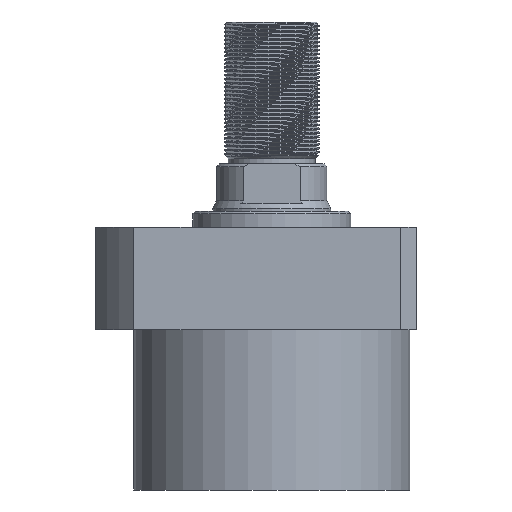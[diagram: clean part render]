
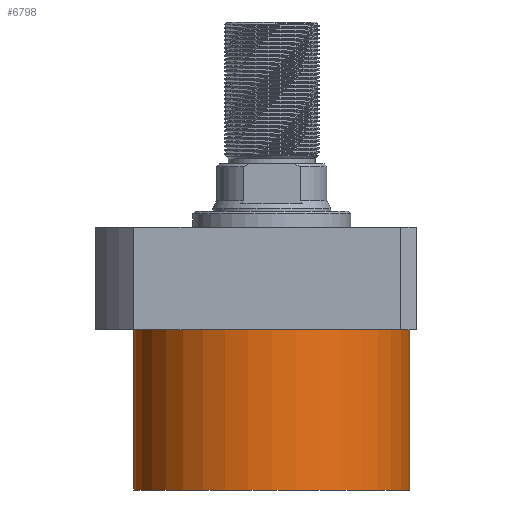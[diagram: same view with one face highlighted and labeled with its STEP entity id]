
A CAD part, front view. The second image highlights one B-rep face of the part: STEP entity #6798.
In plain terms, the highlighted cylindrical face has radius 52.5 mm (diameter 105 mm), a partial arc.
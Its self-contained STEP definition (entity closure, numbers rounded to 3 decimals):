
#62 = VERTEX_POINT ( 'NONE', #534 ) ;
#534 = CARTESIAN_POINT ( 'NONE',  ( -52.5, 0., -19.5 ) ) ;
#572 = EDGE_CURVE ( 'NONE', #6392, #62, #7103, .T. ) ;
#923 = ORIENTED_EDGE ( 'NONE', *, *, #6976, .F. ) ;
#1705 = VERTEX_POINT ( 'NONE', #3132 ) ;
#2084 = LINE ( 'NONE', #4083, #3758 ) ;
#2123 = DIRECTION ( 'NONE',  ( 1., 0., 0. ) ) ;
#2136 = DIRECTION ( 'NONE',  ( 0., 0., -1. ) ) ;
#2196 = EDGE_LOOP ( 'NONE', ( #2814, #923, #5557, #5338 ) ) ;
#2271 = VECTOR ( 'NONE', #6696, 1000. ) ;
#2479 = AXIS2_PLACEMENT_3D ( 'NONE', #3488, #5337, #4856 ) ;
#2654 = CARTESIAN_POINT ( 'NONE',  ( -52.5, 0., -80.5 ) ) ;
#2676 = AXIS2_PLACEMENT_3D ( 'NONE', #5878, #2136, #6488 ) ;
#2814 = ORIENTED_EDGE ( 'NONE', *, *, #4595, .F. ) ;
#2959 = CARTESIAN_POINT ( 'NONE',  ( -52.5, 0., -80.5 ) ) ;
#3132 = CARTESIAN_POINT ( 'NONE',  ( 52.5, 0., -80.5 ) ) ;
#3488 = CARTESIAN_POINT ( 'NONE',  ( 0., 0., -19.5 ) ) ;
#3603 = EDGE_CURVE ( 'NONE', #1705, #6392, #2084, .T. ) ;
#3758 = VECTOR ( 'NONE', #7787, 1000. ) ;
#3986 = DIRECTION ( 'NONE',  ( 0., 0., 1. ) ) ;
#4083 = CARTESIAN_POINT ( 'NONE',  ( 52.5, 0., -80.5 ) ) ;
#4595 = EDGE_CURVE ( 'NONE', #8008, #62, #8102, .T. ) ;
#4630 = CYLINDRICAL_SURFACE ( 'NONE', #5324, 52.5 ) ;
#4856 = DIRECTION ( 'NONE',  ( 1., 0., 0. ) ) ;
#5019 = FACE_OUTER_BOUND ( 'NONE', #2196, .T. ) ;
#5324 = AXIS2_PLACEMENT_3D ( 'NONE', #5867, #3986, #2123 ) ;
#5337 = DIRECTION ( 'NONE',  ( 0., 0., -1. ) ) ;
#5338 = ORIENTED_EDGE ( 'NONE', *, *, #572, .T. ) ;
#5520 = CIRCLE ( 'NONE', #2676, 52.5 ) ;
#5557 = ORIENTED_EDGE ( 'NONE', *, *, #3603, .T. ) ;
#5637 = CARTESIAN_POINT ( 'NONE',  ( 52.5, 0., -19.5 ) ) ;
#5867 = CARTESIAN_POINT ( 'NONE',  ( 0., 0., -80.5 ) ) ;
#5878 = CARTESIAN_POINT ( 'NONE',  ( 0., 0., -80.5 ) ) ;
#6392 = VERTEX_POINT ( 'NONE', #5637 ) ;
#6488 = DIRECTION ( 'NONE',  ( -1., 0., 0. ) ) ;
#6696 = DIRECTION ( 'NONE',  ( 0., 0., 1. ) ) ;
#6798 = ADVANCED_FACE ( 'NONE', ( #5019 ), #4630, .T. ) ;
#6976 = EDGE_CURVE ( 'NONE', #1705, #8008, #5520, .T. ) ;
#7103 = CIRCLE ( 'NONE', #2479, 52.5 ) ;
#7787 = DIRECTION ( 'NONE',  ( 0., 0., 1. ) ) ;
#8008 = VERTEX_POINT ( 'NONE', #2654 ) ;
#8102 = LINE ( 'NONE', #2959, #2271 ) ;
